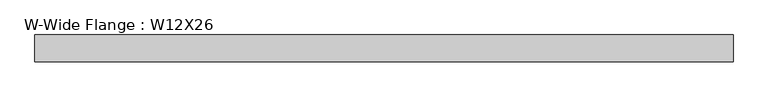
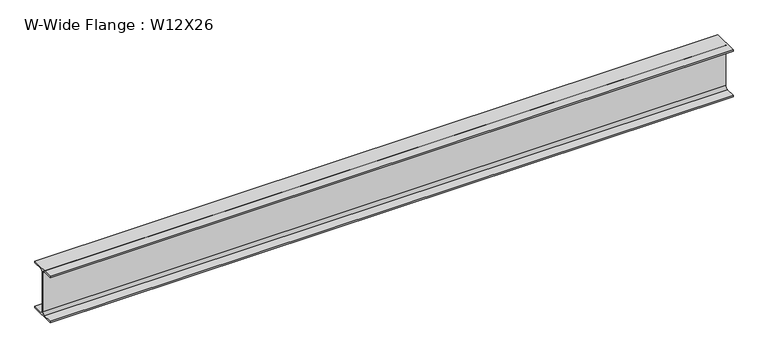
"""IFC4 building model written with IfcOpenShell, lengths in millimetres: beam geometry, W-Wide Flange : W12X26."""

from ifc_helpers import new_model, si_unit, point, frame, frame_2d, origin, place, context, project, spatial, polyline, circle_curve, trimmed, segment, composite_curve, outline, extrude, source, transform, mapped, element, save


def w_wide_flange_w12x26_ad91ab04(model_context):
    return source(origin(), model_context, "Body", "SweptSolid", [
        extrude(outline(composite_curve([segment(polyline([(82.4011719, -145.5539063), (82.4011719, -155.178125), (-82.4011719, -155.178125), (-82.4011719, -145.5539063), (-20.2902344, -145.5539063)]), True, "CONTINUOUS"), segment(trimmed(circle_curve(frame_2d((-20.2902344, -128.190625)), 17.3632812), [point((-20.2902344, -145.5539063))], [point((-2.9269531, -128.190625))], True, "CARTESIAN"), True, "CONTINUOUS"), segment(polyline([(-2.9269531, -128.190625), (-2.9269531, 128.190625)]), True, "CONTINUOUS"), segment(trimmed(circle_curve(frame_2d((-20.2902344, 128.190625)), 17.3632812), [point((-2.9269531, 128.190625))], [point((-20.2902344, 145.5539062))], True, "CARTESIAN"), True, "CONTINUOUS"), segment(polyline([(-20.2902344, 145.5539062), (-82.4011719, 145.5539062), (-82.4011719, 155.178125), (82.4011719, 155.178125), (82.4011719, 145.5539062), (20.2902344, 145.5539062)]), True, "CONTINUOUS"), segment(trimmed(circle_curve(frame_2d((20.2902344, 128.190625)), 17.3632812), [point((20.2902344, 145.5539062))], [point((2.9269531, 128.190625))], True, "CARTESIAN"), True, "CONTINUOUS"), segment(polyline([(2.9269531, 128.190625), (2.9269531, -128.190625)]), True, "CONTINUOUS"), segment(trimmed(circle_curve(frame_2d((20.2902344, -128.190625)), 17.3632812), [point((2.9269531, -128.190625))], [point((20.2902344, -145.5539063))], True, "CARTESIAN"), True, "CONTINUOUS"), segment(polyline([(20.2902344, -145.5539063), (82.4011719, -145.5539063)]), True, "CONTINUOUS")], self_intersect=False)), frame((-2146.3, 0.0, 0.0), z_axis=(1.0, 0.0, 0.0), x_axis=(0.0, 1.0, 0.0)), (0.0, 0.0, 1.0), 4292.6),
    ])


if __name__ == "__main__":
    model = new_model("IFC4")
    model_context = context("Model", 3, world=origin())
    ifc_project = project(units=[si_unit("LENGTHUNIT", "METRE", prefix="MILLI")], contexts=[model_context])
    site = spatial("IfcSite", under=ifc_project)
    building = spatial("IfcBuilding", under=site)
    placement = place(None, origin())
    w_wide_flange_w12x26_shape = w_wide_flange_w12x26_ad91ab04(model_context)
    element("IfcBeam", 1, ObjectType="W-Wide Flange : W12X26", at=placement, inside=building, context=model_context, shape_type="MappedRepresentation", body=[
        mapped(w_wide_flange_w12x26_shape, transform((0.0, 0.0, 0.0), x_axis=(1.0, 0.0, 0.0), y_axis=(0.0, 1.0, 0.0), z_axis=(0.0, 0.0, 1.0))),
    ])
    save(model, "model.ifc")
